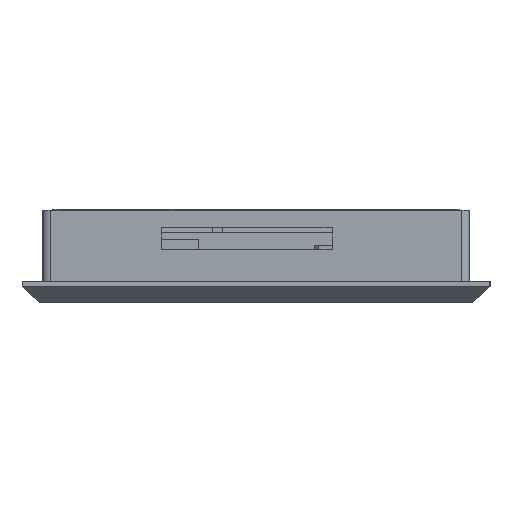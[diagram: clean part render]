
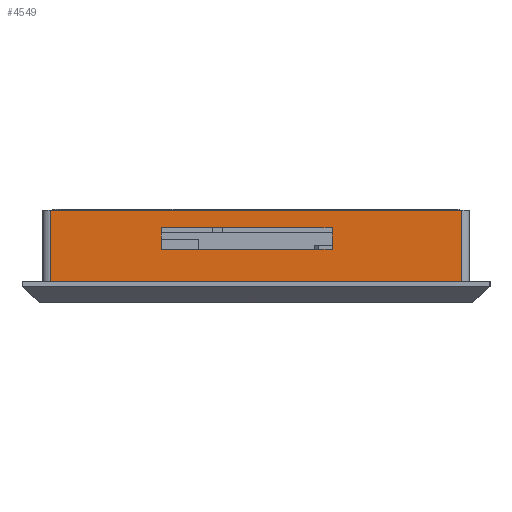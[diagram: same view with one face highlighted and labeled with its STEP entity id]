
A CAD part, left-side view. The second image highlights one B-rep face of the part: STEP entity #4549.
In plain terms, the highlighted planar face has unit normal (-1, 0, 0).
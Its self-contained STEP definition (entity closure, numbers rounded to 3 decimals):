
#4549=ADVANCED_FACE('',(#7591,#7592),#6300,.T.);
#6300=PLANE('',#36967);
#7591=FACE_BOUND('',#8007,.T.);
#7592=FACE_BOUND('',#8008,.T.);
#8007=EDGE_LOOP('',(#11227,#11228,#11229,#11230));
#8008=EDGE_LOOP('',(#11231,#11232,#11233,#11234));
#11227=ORIENTED_EDGE('',*,*,#24157,.F.);
#11228=ORIENTED_EDGE('',*,*,#24158,.F.);
#11229=ORIENTED_EDGE('',*,*,#24152,.T.);
#11230=ORIENTED_EDGE('',*,*,#24155,.F.);
#11231=ORIENTED_EDGE('',*,*,#24188,.T.);
#11232=ORIENTED_EDGE('',*,*,#24055,.T.);
#11233=ORIENTED_EDGE('',*,*,#24190,.T.);
#11234=ORIENTED_EDGE('',*,*,#24191,.F.);
#20794=VERTEX_POINT('',#49017);
#20795=VERTEX_POINT('',#49019);
#20859=VERTEX_POINT('',#49211);
#20860=VERTEX_POINT('',#49213);
#20861=VERTEX_POINT('',#49217);
#20862=VERTEX_POINT('',#49221);
#20886=VERTEX_POINT('',#49287);
#20887=VERTEX_POINT('',#49291);
#24055=EDGE_CURVE('',#20795,#20794,#28966,.T.);
#24152=EDGE_CURVE('',#20860,#20859,#29051,.T.);
#24155=EDGE_CURVE('',#20861,#20859,#29054,.T.);
#24157=EDGE_CURVE('',#20862,#20861,#29056,.T.);
#24158=EDGE_CURVE('',#20860,#20862,#29057,.T.);
#24188=EDGE_CURVE('',#20886,#20795,#29077,.T.);
#24190=EDGE_CURVE('',#20794,#20887,#29078,.T.);
#24191=EDGE_CURVE('',#20886,#20887,#29079,.T.);
#28966=LINE('',#49018,#32940);
#29051=LINE('',#49212,#33025);
#29054=LINE('',#49218,#33028);
#29056=LINE('',#49222,#33030);
#29057=LINE('',#49224,#33031);
#29077=LINE('',#49286,#33051);
#29078=LINE('',#49290,#33052);
#29079=LINE('',#49292,#33053);
#32940=VECTOR('',#39685,1.);
#33025=VECTOR('',#39858,1.);
#33028=VECTOR('',#39863,1.);
#33030=VECTOR('',#39867,1.);
#33031=VECTOR('',#39870,1.);
#33051=VECTOR('',#39928,1.);
#33052=VECTOR('',#39933,1.);
#33053=VECTOR('',#39934,1.);
#36967=AXIS2_PLACEMENT_3D('',#49293,#39935,#39936);
#39685=DIRECTION('',(0.,1.,0.));
#39858=DIRECTION('',(0.,1.,0.));
#39863=DIRECTION('',(0.,0.,-1.));
#39867=DIRECTION('',(0.,1.,0.));
#39870=DIRECTION('',(0.,0.,1.));
#39928=DIRECTION('',(0.,0.,1.));
#39933=DIRECTION('',(0.,0.,-1.));
#39934=DIRECTION('',(0.,1.,0.));
#39935=DIRECTION('',(-1.,0.,0.));
#39936=DIRECTION('',(0.,0.,-1.));
#49017=CARTESIAN_POINT('',(-8.59,5.12,13.2));
#49018=CARTESIAN_POINT('',(-8.59,-100.4,13.2));
#49019=CARTESIAN_POINT('',(-8.59,-110.28,13.2));
#49211=CARTESIAN_POINT('',(-8.59,-25.93,2.2));
#49212=CARTESIAN_POINT('',(-8.59,-100.4,2.2));
#49213=CARTESIAN_POINT('',(-8.59,-73.93,2.2));
#49217=CARTESIAN_POINT('',(-8.59,-25.93,8.2));
#49218=CARTESIAN_POINT('',(-8.59,-25.93,6.));
#49221=CARTESIAN_POINT('',(-8.59,-73.93,8.2));
#49222=CARTESIAN_POINT('',(-8.59,-100.4,8.2));
#49224=CARTESIAN_POINT('',(-8.59,-73.93,6.));
#49286=CARTESIAN_POINT('',(-8.59,-110.28,6.));
#49287=CARTESIAN_POINT('',(-8.59,-110.28,-10.));
#49290=CARTESIAN_POINT('',(-8.59,5.12,6.));
#49291=CARTESIAN_POINT('',(-8.59,5.12,-10.));
#49292=CARTESIAN_POINT('',(-8.59,-100.4,-10.));
#49293=CARTESIAN_POINT('',(-8.59,-100.4,6.));
